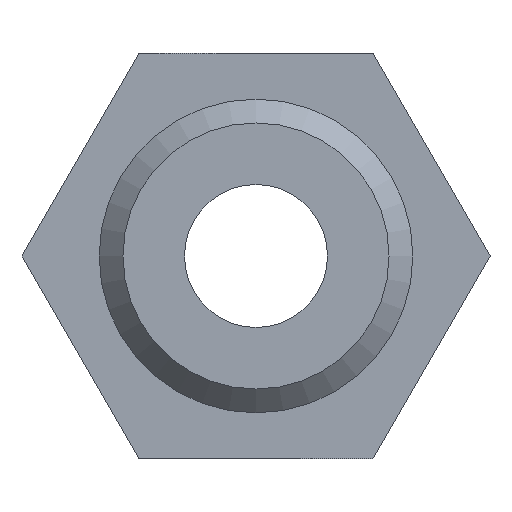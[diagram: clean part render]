
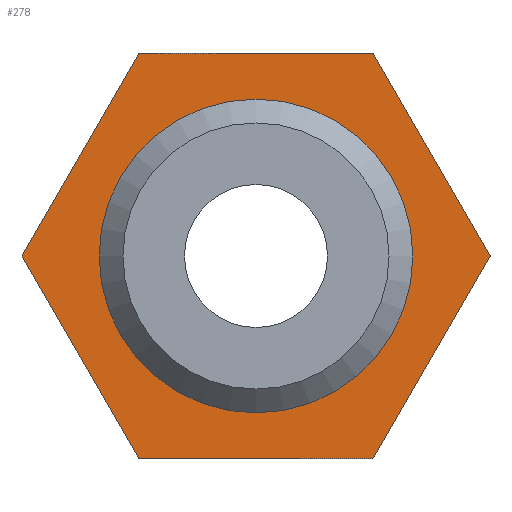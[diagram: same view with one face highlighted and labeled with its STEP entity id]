
A CAD part, front view. The second image highlights one B-rep face of the part: STEP entity #278.
In plain terms, the highlighted planar face has unit normal (0, -1, 0).
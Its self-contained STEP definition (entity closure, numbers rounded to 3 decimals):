
#205=CARTESIAN_POINT('',(0.0,10.0,-6.58));
#206=VERTEX_POINT('',#205);
#207=CARTESIAN_POINT('',(0.0,10.0,0.0));
#208=DIRECTION('',(0.0,-1.0,0.0));
#209=DIRECTION('',(0.0,0.0,-1.0));
#210=AXIS2_PLACEMENT_3D('',#207,#208,#209);
#211=CIRCLE('',#210,6.58);
#212=EDGE_CURVE('',#206,#206,#211,.T.);
#220=CARTESIAN_POINT('',(6.58,10.0,0.0));
#221=DIRECTION('',(0.0,-1.0,0.0));
#222=DIRECTION('',(0.0,0.0,-1.0));
#223=AXIS2_PLACEMENT_3D('',#220,#221,#222);
#224=PLANE('',#223);
#225=CARTESIAN_POINT('',(4.907,10.0,8.5));
#226=VERTEX_POINT('',#225);
#227=CARTESIAN_POINT('',(9.815,10.,0.));
#228=VERTEX_POINT('',#227);
#229=CARTESIAN_POINT('',(4.907,10.,8.5));
#230=DIRECTION('',(0.5,0.0,-0.866));
#231=VECTOR('',#230,9.815);
#232=LINE('',#229,#231);
#233=EDGE_CURVE('',#226,#228,#232,.T.);
#234=ORIENTED_EDGE('',*,*,#233,.F.);
#235=CARTESIAN_POINT('',(-4.907,10.,8.5));
#236=VERTEX_POINT('',#235);
#237=CARTESIAN_POINT('',(-4.907,10.,8.5));
#238=DIRECTION('',(1.0,0.0,0.0));
#239=VECTOR('',#238,9.815);
#240=LINE('',#237,#239);
#241=EDGE_CURVE('',#236,#226,#240,.T.);
#242=ORIENTED_EDGE('',*,*,#241,.F.);
#243=CARTESIAN_POINT('',(-9.815,10.,0.));
#244=VERTEX_POINT('',#243);
#245=CARTESIAN_POINT('',(-9.815,10.,0.));
#246=DIRECTION('',(0.5,0.0,0.866));
#247=VECTOR('',#246,9.815);
#248=LINE('',#245,#247);
#249=EDGE_CURVE('',#244,#236,#248,.T.);
#250=ORIENTED_EDGE('',*,*,#249,.F.);
#251=CARTESIAN_POINT('',(-4.907,10.,-8.5));
#252=VERTEX_POINT('',#251);
#253=CARTESIAN_POINT('',(-4.907,10.,-8.5));
#254=DIRECTION('',(-0.5,0.0,0.866));
#255=VECTOR('',#254,9.815);
#256=LINE('',#253,#255);
#257=EDGE_CURVE('',#252,#244,#256,.T.);
#258=ORIENTED_EDGE('',*,*,#257,.F.);
#259=CARTESIAN_POINT('',(4.907,10.,-8.5));
#260=VERTEX_POINT('',#259);
#261=CARTESIAN_POINT('',(4.907,10.,-8.5));
#262=DIRECTION('',(-1.0,0.0,0.0));
#263=VECTOR('',#262,9.815);
#264=LINE('',#261,#263);
#265=EDGE_CURVE('',#260,#252,#264,.T.);
#266=ORIENTED_EDGE('',*,*,#265,.F.);
#267=CARTESIAN_POINT('',(9.815,10.,0.));
#268=DIRECTION('',(-0.5,0.0,-0.866));
#269=VECTOR('',#268,9.815);
#270=LINE('',#267,#269);
#271=EDGE_CURVE('',#228,#260,#270,.T.);
#272=ORIENTED_EDGE('',*,*,#271,.F.);
#273=EDGE_LOOP('',(#234,#242,#250,#258,#266,#272));
#274=FACE_OUTER_BOUND('',#273,.T.);
#275=ORIENTED_EDGE('',*,*,#212,.F.);
#276=EDGE_LOOP('',(#275));
#277=FACE_BOUND('',#276,.T.);
#278=ADVANCED_FACE('',(#274,#277),#224,.T.);
